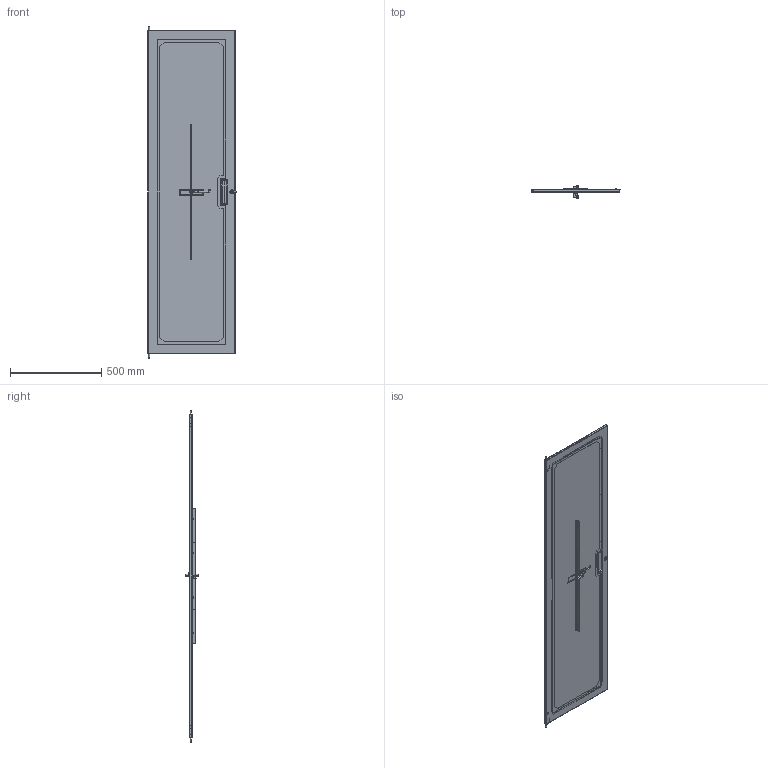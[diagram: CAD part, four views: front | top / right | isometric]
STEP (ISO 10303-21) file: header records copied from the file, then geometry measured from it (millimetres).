
FILE_DESCRIPTION( ( 'Unknown' ), '1' );
FILE_NAME( 'Q:/REFK/DOORS/PLEXI/WEB DRAWINGS/STEP/REDFP19070.stp', 'Unknown', ( 'Unknown' ), ( 'Unknown' ), 'XStep 1.0', 'Unknown', ' ' );
FILE_SCHEMA( ( 'CONFIG_CONTROL_DESIGN' ) );
Length unit declared in the file: millimetre
Products named in the file (26): Assem1; Assem2; 1; 2; 3; 4; 5; 6; 7; 8; 9; 10; 11; 12; 13; 14; 15; 16; 17; 18; 19; 20; 21; 22; 23; 24
Bounding box: 484.17 x 69.85 x 1819.55 mm (x, y, z)
Volume: 9791947.1 mm3; surface area: 5115277.1 mm2
Topology: 73 solids, 73 shells, 1082 faces, 2575 edges, 1662 vertices
Faces by surface type: plane 699, cylinder 302, cone 59, bspline 16, torus 6
Full cylindrical faces by diameter (mm): 4.775 x48, 5.182 x3, 6.35 x57, 8.382 x2, 13.868 x2, 13.97 x2, 21.996 x2
Entity records: 11459 total; most frequent: CARTESIAN_POINT 2132, DIRECTION 1755, ORIENTED_EDGE 1540, EDGE_CURVE 770, AXIS2_PLACEMENT_3D 628, VERTEX_POINT 533, LINE 499, VECTOR 499
